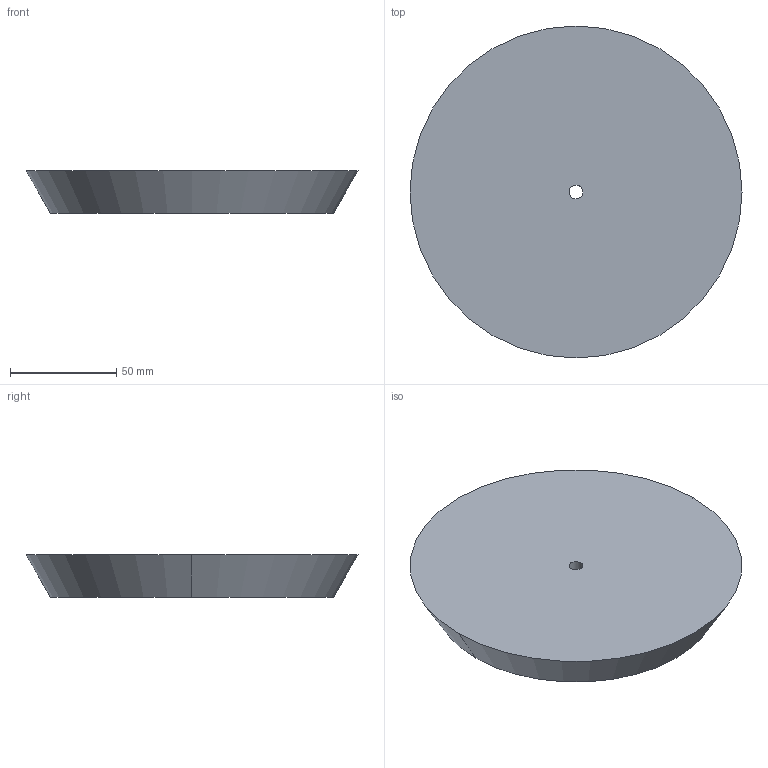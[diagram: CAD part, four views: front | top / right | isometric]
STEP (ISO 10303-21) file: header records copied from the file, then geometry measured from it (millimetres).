
FILE_DESCRIPTION(('CATIA V5 STEP Exchange'),'2;1');
FILE_NAME('C:\Users\andres.garcia\OneDrive - IQS\ASIGNATURAS\DAO\Controles\2223\c0\c1-PIULACHS_Jaume-tapon.stp','2023-02-03T08:22:06+00:00',('none'),('none'),'CATIA Version 5-6 Release 2013 SP6','CATIA V5 STEP AP203','none');
FILE_SCHEMA(('CONFIG_CONTROL_DESIGN'));
Length unit declared in the file: millimetre
Products named in the file (1): c1-PIULACHS_Jaume-tapon
Bounding box: 156 x 156 x 20 mm (x, y, z)
Volume: 327807.3 mm3; surface area: 43809.1 mm2
Topology: 1 solids, 1 shells, 6 faces, 12 edges, 8 vertices
Faces by surface type: cylinder 2, plane 2, cone 2
Entity records: 196 total; most frequent: CARTESIAN_POINT 26, ORIENTED_EDGE 24, DIRECTION 22, AXIS2_PLACEMENT_3D 14, EDGE_CURVE 12, CIRCLE 8, EDGE_LOOP 8, VERTEX_POINT 8
